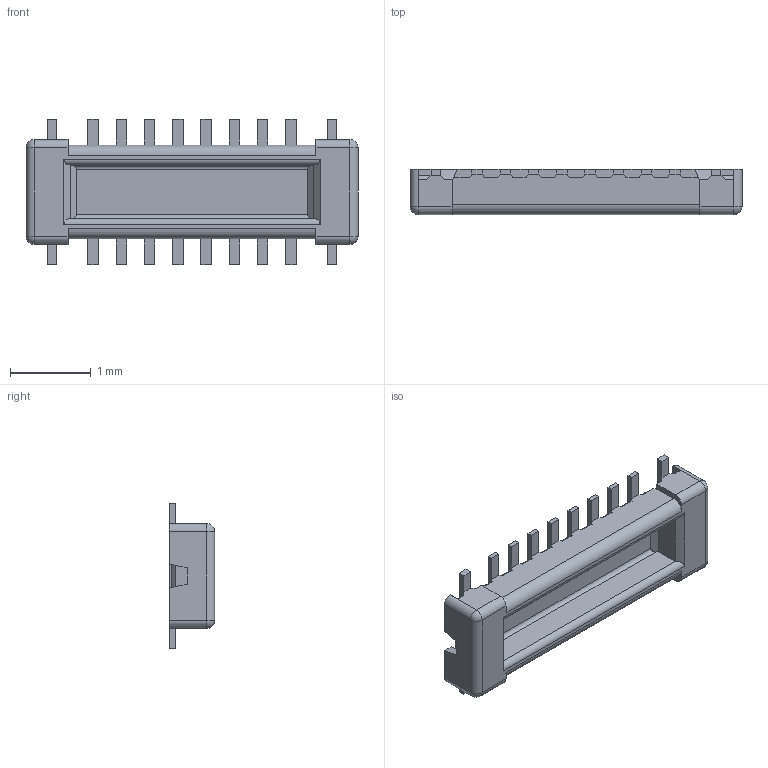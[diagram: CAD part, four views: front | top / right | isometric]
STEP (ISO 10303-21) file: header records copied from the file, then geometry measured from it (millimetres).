
FILE_DESCRIPTION (( 'STEP AP203' ), '1' );
FILE_NAME ('20708-016E-01 PLUG ASSY STEP R1 ALL.STEP', '2025-02-21T04:53:16', ( '' ), ( '' ), 'SwSTEP 2.0', 'SolidWorks 2023', '' );
FILE_SCHEMA (( 'CONFIG_CONTROL_DESIGN' ));
Length unit declared in the file: millimetre
Products named in the file (1): 20708-016E-01 PLUG ASSY STEP R1 ALL
Bounding box: 4.11 x 0.56 x 1.8 mm (x, y, z)
Volume: 1.8 mm3; surface area: 21.3 mm2
Topology: 1 solids, 1 shells, 253 faces, 694 edges, 440 vertices
Faces by surface type: plane 233, cylinder 16, sphere 4
Entity records: 7845 total; most frequent: CARTESIAN_POINT 1408, ORIENTED_EDGE 1380, DIRECTION 1214, EDGE_CURVE 690, VECTOR 658, LINE 658, VERTEX_POINT 440, AXIS2_PLACEMENT_3D 278
